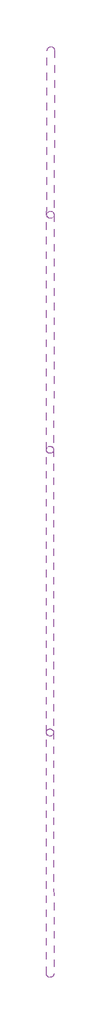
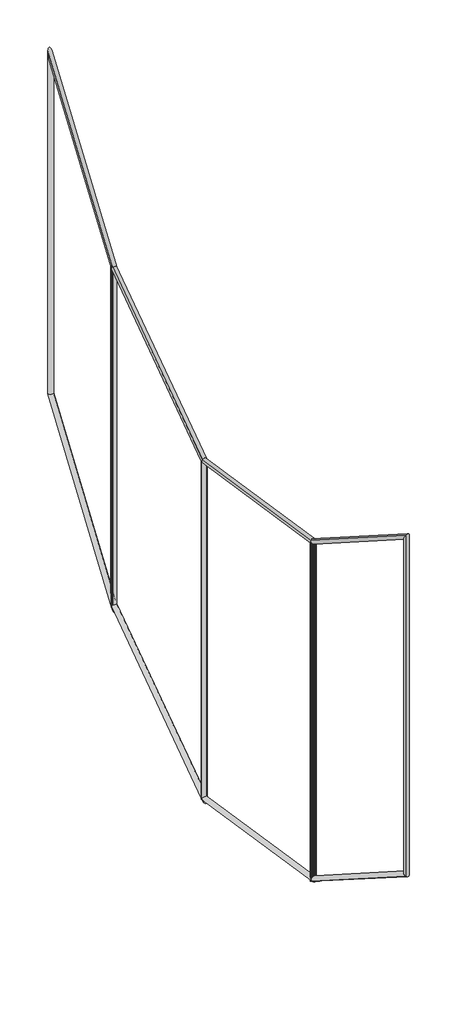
# One storey, incomplete: 4 proxies.
"""IFC4 building model written with IfcOpenShell, lengths in millimetres."""

from ifc_helpers import new_model, si_unit, origin, place, context, project, spatial, transform, mapped, element, save
from components import generic_models_895a63a5, generic_models_c3ee8e33, generic_models_92b674f7, generic_models_a3b1203c

model = new_model("IFC4")

# Units and contexts
model_context = context("Model", 3, world=origin())
ifc_project = project(units=[si_unit("LENGTHUNIT", "METRE", prefix="MILLI")], contexts=[model_context])

# Site, building, storey
site = spatial("IfcSite", under=ifc_project)
building = spatial("IfcBuilding", under=site)
storey = spatial("IfcBuildingStorey", under=building, Name="Nível 1", Elevation=0.0)

# Proxies
placement = place(None, origin())
generic_models_shape = generic_models_895a63a5(model_context)
element("IfcBuildingElementProxy", 1, Name="Família5 : Família5", ObjectType="Família5 : Família5", at=placement, inside=storey, context=model_context, shape_type="MappedRepresentation", body=[
    mapped(generic_models_shape, transform((-2183.9062076, -6650.1550759, 2899.1586653), x_axis=(0.7417337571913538, 0.5647560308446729, -0.3617757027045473), y_axis=(-0.6706913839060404, 0.6262002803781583, -0.39755034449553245), z_axis=(0.0020250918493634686, 0.5375163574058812, 0.8432508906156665))),
])
generic_models_2_shape = generic_models_c3ee8e33(model_context)
element("IfcBuildingElementProxy", 2, Name="Família5 : Família5", ObjectType="Família5 : Família5", at=placement, inside=storey, context=model_context, shape_type="MappedRepresentation", body=[
    mapped(generic_models_2_shape, transform((-2184.2952836, -3730.6511749, 2016.4766157), x_axis=(0.7421642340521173, 0.6621849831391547, -0.10345674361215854), y_axis=(-0.670214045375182, 0.7337988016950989, -0.11114158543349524), z_axis=(0.00232014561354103, 0.15182347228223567, 0.9884049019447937))),
])
generic_models_3_shape = generic_models_92b674f7(model_context)
element("IfcBuildingElementProxy", 3, Name="Família5 : Família5", ObjectType="Família5 : Família5", at=placement, inside=storey, context=model_context, shape_type="MappedRepresentation", body=[
    mapped(generic_models_3_shape, transform((-2372.799666, -998.2086196, 3022.0254646), x_axis=(-0.7411492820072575, 0.5507812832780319, 0.38384595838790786), y_axis=(0.6713383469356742, 0.6094164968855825, 0.4218013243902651), z_axis=(-0.0016017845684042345, 0.5703082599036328, -0.8214291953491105))),
])
generic_models_4_shape = generic_models_a3b1203c(model_context)
element("IfcBuildingElementProxy", 4, Name="Família5 : Família5", ObjectType="Família5 : Família5", at=placement, inside=storey, context=model_context, shape_type="MappedRepresentation", body=[
    mapped(generic_models_4_shape, transform((-2367.7372277, 1051.5916341, 5303.2178685), x_axis=(-0.740937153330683, 0.3850547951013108, 0.550222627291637), y_axis=(0.6715728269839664, 0.4265802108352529, 0.6058211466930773), z_axis=(-0.001439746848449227, 0.8183899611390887, -0.5746614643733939))),
])

save(model, "model.ifc")
